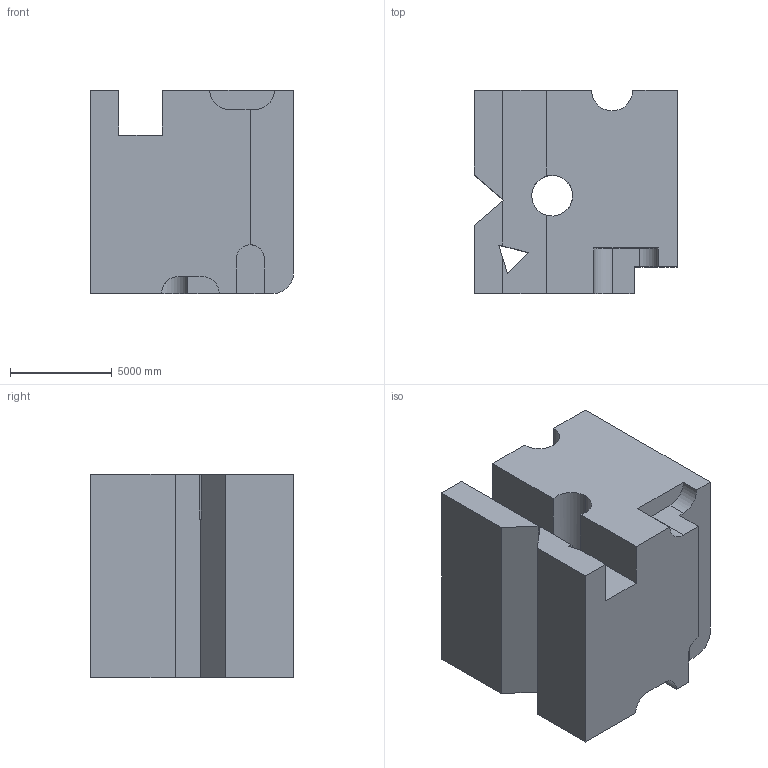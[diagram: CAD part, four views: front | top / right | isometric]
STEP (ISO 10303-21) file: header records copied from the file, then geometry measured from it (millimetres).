
FILE_DESCRIPTION (( 'STEP AP203' ), '1' );
FILE_NAME ('929.STEP', '2022-07-29T14:24:24', ( 'user' ), ( '' ), 'SwSTEP 2.0', 'SolidWorks 2021', '' );
FILE_SCHEMA (( 'CONFIG_CONTROL_DESIGN' ));
Length unit declared in the file: centimetre
Products named in the file (1): 929
Bounding box: 10000 x 10000 x 10000 mm (x, y, z)
Volume: 823044354757.3 mm3; surface area: 741632229.1 mm2
Topology: 1 solids, 1 shells, 39 faces, 120 edges, 80 vertices
Faces by surface type: plane 30, cylinder 9
Entity records: 1478 total; most frequent: CARTESIAN_POINT 299, ORIENTED_EDGE 240, DIRECTION 221, EDGE_CURVE 120, VECTOR 97, LINE 97, VERTEX_POINT 80, AXIS2_PLACEMENT_3D 62
